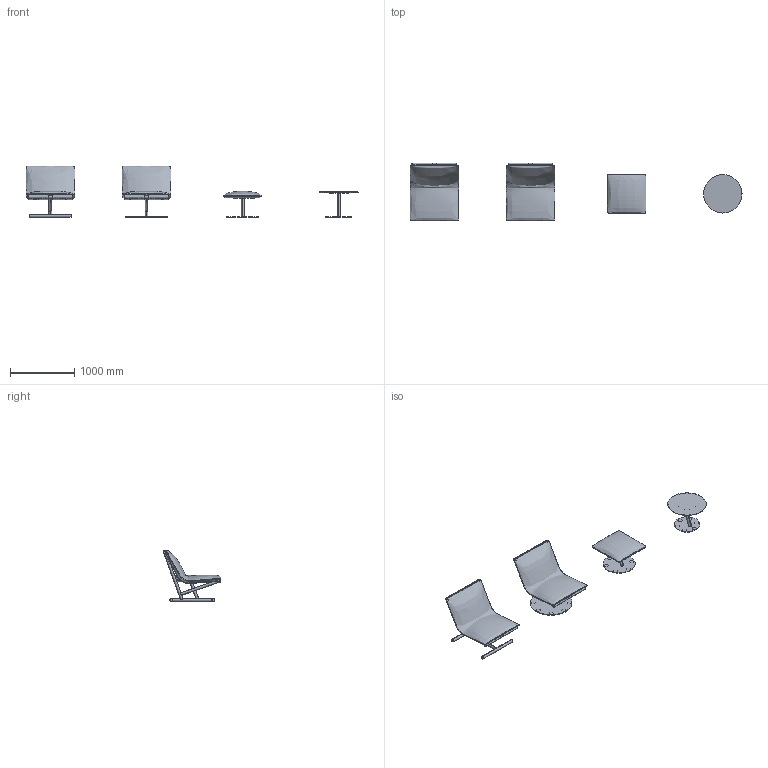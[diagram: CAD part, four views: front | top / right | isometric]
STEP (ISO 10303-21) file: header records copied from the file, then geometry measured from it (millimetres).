
FILE_DESCRIPTION(/* description */ (''),/* implementation_level */ '2;1');
FILE_NAME(/* name */ 'TRUE_Farfalla_3D',/* time_stamp */ '2025-06-10T14:15:29+02:00',/* author */ (''),/* organization */ (''),/* preprocessor_version */ 'ST-DEVELOPER v19.2',/* originating_system */ 'Rhino 8.19',/* authorisation */ '');
FILE_SCHEMA (('CONFIG_CONTROL_DESIGN'));
Length unit declared in the file: millimetre
Products named in the file (1): Document
Bounding box: 5180.15 x 898.64 x 803.49 mm (x, y, z)
Volume: 250166594.9 mm3; surface area: 15255396 mm2
Topology: 42 solids, 42 shells, 384 faces, 836 edges, 534 vertices
Faces by surface type: cylinder 174, plane 126, bspline 84
Entity records: 38422 total; most frequent: CARTESIAN_POINT 31742, ORIENTED_EDGE 1664, EDGE_CURVE 832, DIRECTION 782, AXIS2_PLACEMENT_3D 541, VERTEX_POINT 526, EDGE_LOOP 406, ADVANCED_FACE 384
